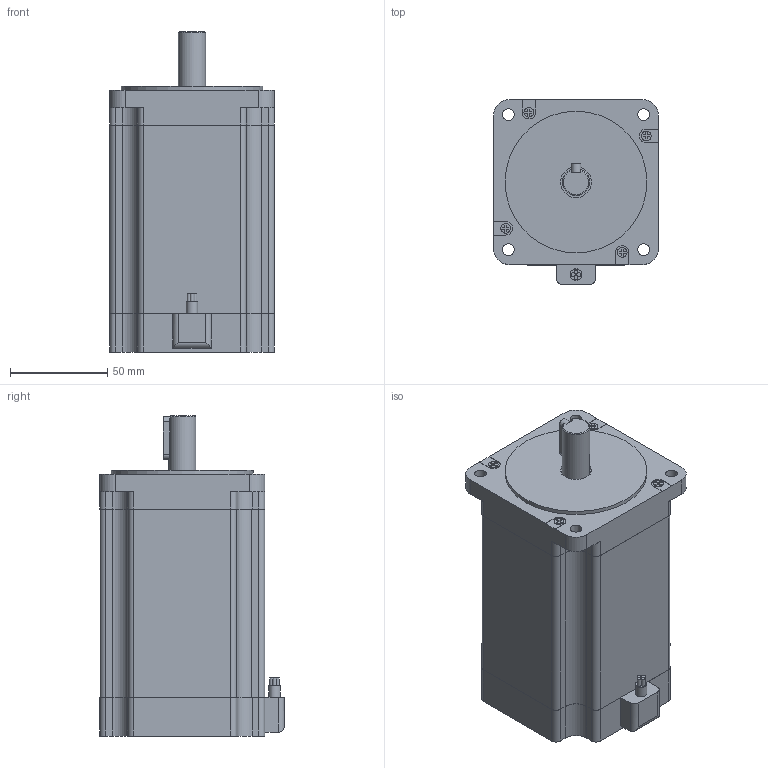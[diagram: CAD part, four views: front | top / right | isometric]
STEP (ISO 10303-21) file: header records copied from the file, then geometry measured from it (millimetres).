
FILE_DESCRIPTION(/* description */ (''),/* implementation_level */ '2;1');
FILE_NAME(/* name */ 'STC-86E32-03135.stp',/* time_stamp */ '2018-08-17T09:18:16+08:00',/* author */ (''),/* organization */ (''),/* preprocessor_version */ 'ST-DEVELOPER v11',/* originating_system */ 'SIEMENS UGS NX 6.0',/* authorisation */ '');
FILE_SCHEMA (('CONFIG_CONTROL_DESIGN'));
Length unit declared in the file: millimetre
Products named in the file (1): STC-86E32-03135
Bounding box: 85 x 95 x 165 mm (x, y, z)
Surface area: 61142 mm2
Topology: 1 solids, 2 shells, 201 faces, 542 edges, 363 vertices
Faces by surface type: plane 133, cylinder 67, torus 1
Full cylindrical faces by diameter (mm): 2 x4, 5 x4, 6 x5, 14 x2, 16 x1, 73.025 x1
Entity records: 6286 total; most frequent: CARTESIAN_POINT 1135, DIRECTION 1046, ORIENTED_EDGE 1028, EDGE_CURVE 514, LINE 378, VECTOR 378, VERTEX_POINT 353, AXIS2_PLACEMENT_3D 334
